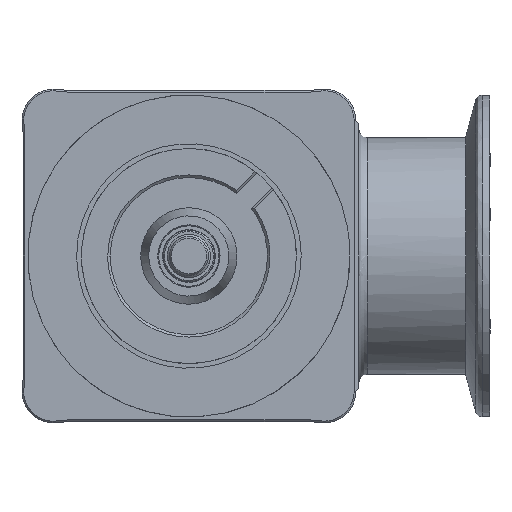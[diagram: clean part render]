
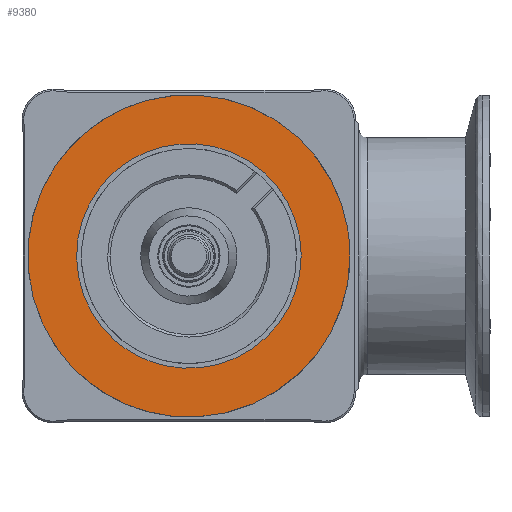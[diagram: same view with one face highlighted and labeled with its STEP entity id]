
A CAD part, front view. The second image highlights one B-rep face of the part: STEP entity #9380.
In plain terms, the highlighted free-form (B-spline) face has degree [1, 1] with [2, 2] control points.
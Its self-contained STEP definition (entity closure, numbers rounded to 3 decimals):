
#9322=CARTESIAN_POINT('V59',(26.1,-32.5,
   0.0));
#9323=VERTEX_POINT('V59',#9322);
#9331=CARTESIAN_POINT('E94',(26.1,-32.5,
   0.0));
#9332=CARTESIAN_POINT('E94',(26.1,-32.5,
   -45.207));
#9333=CARTESIAN_POINT('E94',(-13.05,-32.5,
   -22.603));
#9334=CARTESIAN_POINT('E94',(-52.2,-32.5,
   0.));
#9335=CARTESIAN_POINT('E94',(-13.05,-32.5,
   22.603));
#9336=CARTESIAN_POINT('E94',(26.1,-32.5,
   45.207));
#9337=CARTESIAN_POINT('E94',(26.1,-32.5,
   0.0));
#9345=(BOUNDED_CURVE()B_SPLINE_CURVE(2,(#9331,#9332,#9333,#9334,
   #9335,#9336,#9337),.CIRCULAR_ARC.,.T.,.U.)
   B_SPLINE_CURVE_WITH_KNOTS((3,2,2,3),(0.0,0.333,
   0.667,1.0),.UNSPECIFIED.)CURVE()
   GEOMETRIC_REPRESENTATION_ITEM()RATIONAL_B_SPLINE_CURVE((1.0,
   0.5,1.0,0.5,1.0,0.5,1.0)
   )REPRESENTATION_ITEM('E94'));
#9346=EDGE_CURVE('E94',#9323,#9323,#9345,.T.);
#9351=CARTESIAN_POINT('F39',(41.198,-32.5,
   -41.198));
#9352=CARTESIAN_POINT('F39',(41.198,-32.5,
   41.198));
#9353=CARTESIAN_POINT('F39',(-41.198,-32.5,
   -41.198));
#9354=CARTESIAN_POINT('F39',(-41.198,-32.5,
   41.198));
#9355=QUASI_UNIFORM_SURFACE('F39',1,1,((#9351,#9353),(#9352,#9354))
,.PLANE_SURF.,.F.,.F.,.U.);
#9356=CARTESIAN_POINT('V58',(37.452,-32.5,
   0.0));
#9357=VERTEX_POINT('V58',#9356);
#9358=CARTESIAN_POINT('E93',(37.452,-32.5,
   0.0));
#9359=CARTESIAN_POINT('E93',(37.452,-32.5,
   -64.87));
#9360=CARTESIAN_POINT('E93',(-18.726,-32.5,
   -32.435));
#9361=CARTESIAN_POINT('E93',(-74.905,-32.5,
   0.));
#9362=CARTESIAN_POINT('E93',(-18.726,-32.5,
   32.435));
#9363=CARTESIAN_POINT('E93',(37.452,-32.5,
   64.87));
#9364=CARTESIAN_POINT('E93',(37.452,-32.5,
   0.0));
#9372=(BOUNDED_CURVE()B_SPLINE_CURVE(2,(#9358,#9359,#9360,#9361,
   #9362,#9363,#9364),.CIRCULAR_ARC.,.T.,.U.)
   B_SPLINE_CURVE_WITH_KNOTS((3,2,2,3),(0.0,70.167,
   140.334,210.501),.UNSPECIFIED.)CURVE()
   GEOMETRIC_REPRESENTATION_ITEM()RATIONAL_B_SPLINE_CURVE((1.0,
   0.5,1.0,0.5,1.0,0.5,1.0)
   )REPRESENTATION_ITEM('E93'));
#9373=EDGE_CURVE('E93',#9357,#9357,#9372,.T.);
#9374=ORIENTED_EDGE('E93',*,*,#9373,.T.);
#9375=EDGE_LOOP('F39',(#9374));
#9376=FACE_OUTER_BOUND('F39',#9375,.F.);
#9377=ORIENTED_EDGE('F40',*,*,#9346,.F.);
#9378=EDGE_LOOP('F39',(#9377));
#9379=FACE_BOUND('F39',#9378,.F.);
#9380=ADVANCED_FACE('F39',(#9376,#9379),#9355,.T.);
